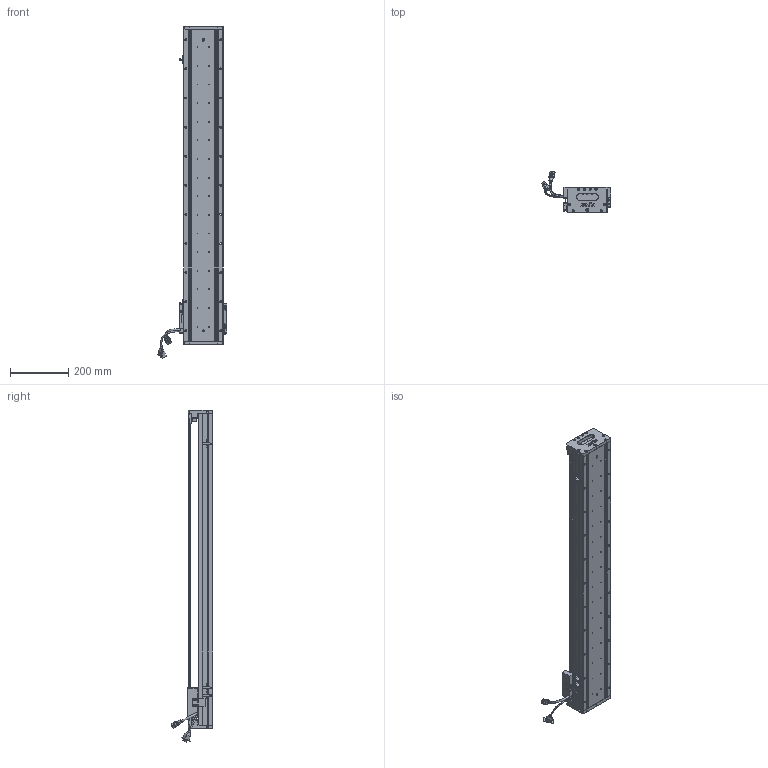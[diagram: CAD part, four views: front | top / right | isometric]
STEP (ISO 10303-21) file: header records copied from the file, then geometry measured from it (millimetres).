
FILE_DESCRIPTION (( 'STEP AP203' ), '1' );
FILE_NAME ('Z1-RY140D-1-L500-B-K.SLDASM_0900.step', '2021-05-17T07:31:14', ( '盈信电脑' ), ( '东莞市道滘镇水果街19号' ), 'SwSTEP 2.0', 'SolidWorks 2016', '' );
FILE_SCHEMA (( 'CONFIG_CONTROL_DESIGN' ));
Length unit declared in the file: millimetre
Products named in the file (36): SCREW-M1.7; SHIELDPLATE; SCREW-M1.6-1; LABEL-Part-1; LABEL; 覜茼ん672; SEAL; SCREW-M1.6-3; Z1-RY140-L500直线电机模组底座_0900; SCALE-Part-2; HARNESS-Part-2; SCALE-Part-1; Z-140詩湍傷裔啣; 140蚥薯蝶輸; Z-RY140感应器672光电感应片; 140雄赽晤鎢ん堤盄; COVER-Part-1; Z1-RY140D-1-L500-B-K.SLDASM_0900; HOLDER0; SCREW-M1.7-1; Z1-RY140圉猾敕臏賑輸(21遴); PSLH080_PSLF2; HARNESS; Z1-RY140-L500詩湍100mm遵_0900; 140-Z-臏賑輸盄裔(21遴); 080黍杅芛假蚾釱21遴; SCREW-M1.6; Z-RY140詩湍狟揤裔; HARNESS-Part-1; SEAL-Part-1; COVER; PBU_SHEET; SCALE; SCREW-M1.6-2; 榋妏寠巭燃_暯_M2_2; Z-RY140詩湍奻揤裔
Assembly tree (41 placements, depth 4):
  Z1-RY140D-1-L500-B-K.SLDASM_0900
    Z1-RY140-L500直线电机模组底座_0900
    Z-RY140感应器672光电感应片
    Z1-RY140圉猾敕臏賑輸(21遴)
    覜茼ん672  x3
    Z1-RY140-L500詩湍100mm遵_0900
    PSLH080_PSLF2
      SCALE
        SCALE-Part-1
        SCALE-Part-2
      HARNESS
        HARNESS-Part-1
        HARNESS-Part-2
      LABEL
        LABEL-Part-1
      COVER
        COVER-Part-1
      SEAL
        SEAL-Part-1
      榋妏寠巭燃_暯_M2_2
      SHIELDPLATE
      SCREW-M1.7
      SCREW-M1.7-1
      PBU_SHEET
      SCREW-M1.6
      SCREW-M1.6-1
      SCREW-M1.6-2
      SCREW-M1.6-3
      HOLDER0
    080黍杅芛假蚾釱21遴
    140-Z-臏賑輸盄裔(21遴)
    Z-140詩湍傷裔啣  x2
    Z-RY140詩湍狟揤裔  x2
    Z-RY140詩湍奻揤裔  x2
    140蚥薯蝶輸  x2
    140雄赽晤鎢ん堤盄
Bounding box: 239.84 x 143.88 x 1140.88 mm (x, y, z)
Volume: 3828923.9 mm3; surface area: 1025476.2 mm2
Topology: 36 solids, 36 shells, 2932 faces, 7766 edges, 4927 vertices
Faces by surface type: cylinder 1392, plane 1148, cone 270, torus 69, bspline 53
Entity records: 86594 total; most frequent: CARTESIAN_POINT 22397, ORIENTED_EDGE 12684, DIRECTION 12362, EDGE_CURVE 6342, AXIS2_PLACEMENT_3D 4524, VERTEX_POINT 4095, VECTOR 3314, LINE 3314
